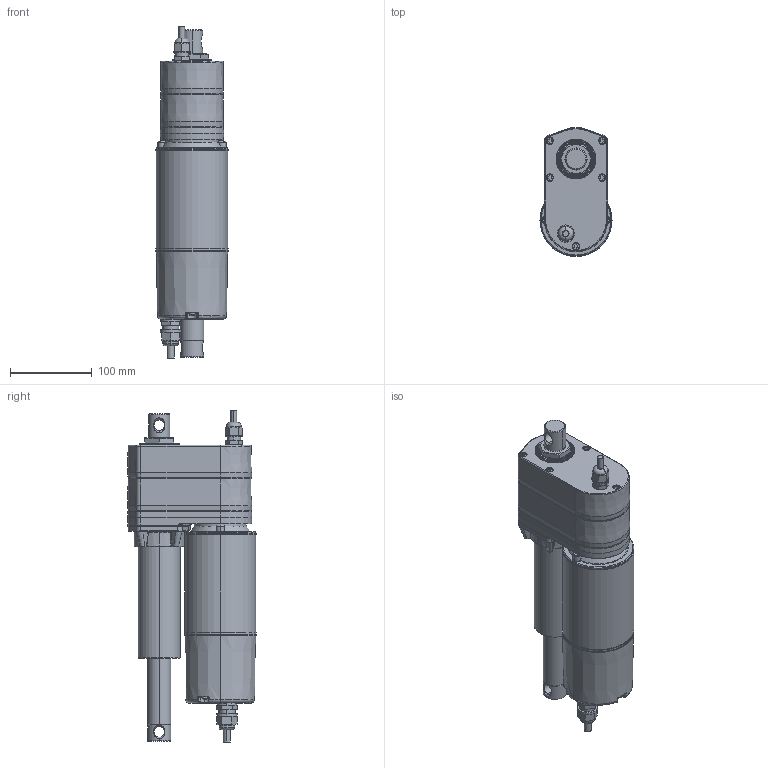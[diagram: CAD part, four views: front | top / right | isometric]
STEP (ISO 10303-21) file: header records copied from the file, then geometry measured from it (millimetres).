
FILE_DESCRIPTION((''),' ');
FILE_NAME('dszy5_pot_102.stp',' ',('R. Lindner'),('MSW GmbH'),' ','ACIS 14.0',' ');
FILE_SCHEMA(('automotive_design'));
Length unit declared in the file: inch
Products named in the file (2): DSZY5-POT-102|NAUO1#I-1;°£®Æ-¦ùªø16; DSZY5-POT-102|NAUO2#-2;°£®Æ-±ÛÂà9
Bounding box: 88 x 157.08 x 405.23 mm (x, y, z)
Volume: 2714457.5 mm3; surface area: 195337.4 mm2
Topology: 2 solids, 2 shells, 1159 faces, 2936 edges, 1812 vertices
Faces by surface type: plane 614, cylinder 239, torus 131, bspline 106, cone 63, sphere 6
Entity records: 47859 total; most frequent: CARTESIAN_POINT 12874, ORIENTED_EDGE 5844, DIRECTION 5005, EDGE_CURVE 2922, AXIS2_PLACEMENT_3D 1924, VERTEX_POINT 1812, EDGE_LOOP 1208, STYLED_ITEM 1161
